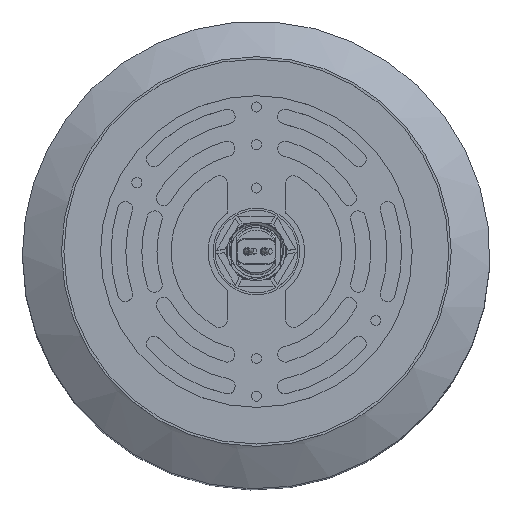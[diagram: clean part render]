
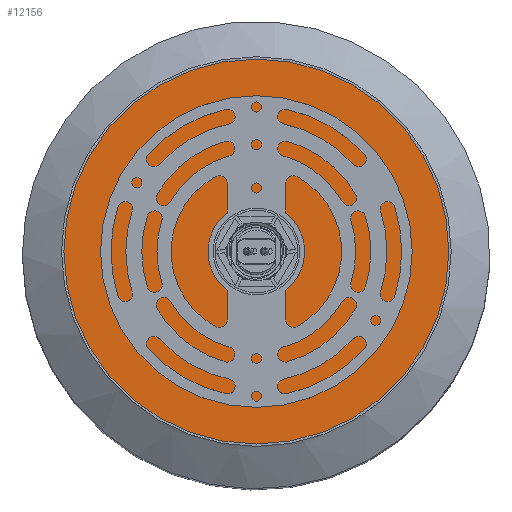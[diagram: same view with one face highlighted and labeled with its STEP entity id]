
A CAD part, top view. The second image highlights one B-rep face of the part: STEP entity #12156.
In plain terms, the highlighted planar face has unit normal (0, 0, 1).
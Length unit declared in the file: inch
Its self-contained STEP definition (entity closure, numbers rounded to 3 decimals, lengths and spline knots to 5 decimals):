
#157=FACE_BOUND('',#2406,.T.);
#909=PLANE('',#13098);
#1622=FACE_OUTER_BOUND('',#2405,.T.);
#2405=EDGE_LOOP('',(#10194));
#2406=EDGE_LOOP('',(#10195));
#5044=CIRCLE('',#13093,0.45);
#5046=CIRCLE('',#13096,2.47);
#5917=VERTEX_POINT('',#20418);
#5919=VERTEX_POINT('',#20424);
#7423=EDGE_CURVE('',#5917,#5917,#5044,.T.);
#7426=EDGE_CURVE('',#5919,#5919,#5046,.F.);
#10194=ORIENTED_EDGE('',*,*,#7426,.T.);
#10195=ORIENTED_EDGE('',*,*,#7423,.T.);
#12156=ADVANCED_FACE('',(#1622,#157),#909,.T.);
#13093=AXIS2_PLACEMENT_3D('',#20419,#15487,#15488);
#13096=AXIS2_PLACEMENT_3D('',#20425,#15494,#15495);
#13098=AXIS2_PLACEMENT_3D('',#20429,#15499,#15500);
#15487=DIRECTION('center_axis',(0.,0.,-1.));
#15488=DIRECTION('ref_axis',(1.,0.,0.));
#15494=DIRECTION('center_axis',(0.,0.,-1.));
#15495=DIRECTION('ref_axis',(1.,0.,0.));
#15499=DIRECTION('center_axis',(0.,0.,1.));
#15500=DIRECTION('ref_axis',(1.,0.,0.));
#20418=CARTESIAN_POINT('',(-0.45,0.,44.99));
#20419=CARTESIAN_POINT('Origin',(0.,0.,44.99));
#20424=CARTESIAN_POINT('',(-2.47,0.,44.99));
#20425=CARTESIAN_POINT('Origin',(0.,0.,44.99));
#20429=CARTESIAN_POINT('Origin',(0.,0.,44.99));
